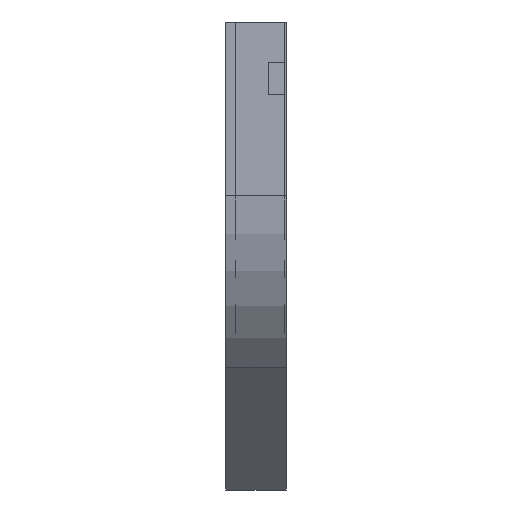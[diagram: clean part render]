
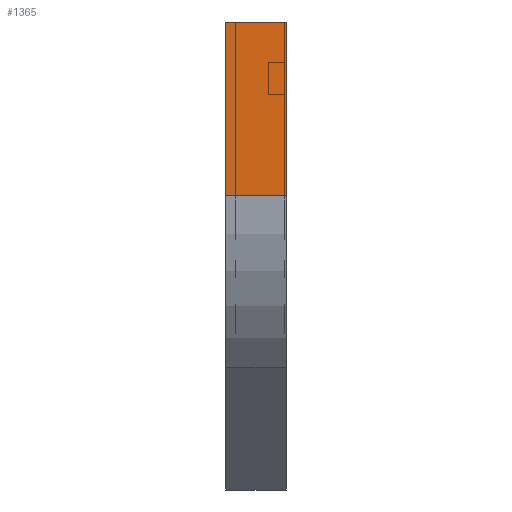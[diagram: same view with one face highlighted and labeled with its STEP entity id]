
A CAD part, left-side view. The second image highlights one B-rep face of the part: STEP entity #1365.
In plain terms, the highlighted planar face has unit normal (-1, 0, 0).
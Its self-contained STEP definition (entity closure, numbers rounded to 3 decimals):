
#20 = DIRECTION ( 'NONE',  ( 0., -1., 0. ) ) ;
#101 = CARTESIAN_POINT ( 'NONE',  ( 0., 75., -215.685 ) ) ;
#172 = DIRECTION ( 'NONE',  ( 0., -1., 0. ) ) ;
#192 = LINE ( 'NONE', #746, #1609 ) ;
#222 = ORIENTED_EDGE ( 'NONE', *, *, #909, .F. ) ;
#306 = VECTOR ( 'NONE', #771, 1000. ) ;
#336 = VERTEX_POINT ( 'NONE', #538 ) ;
#338 = LINE ( 'NONE', #1761, #1298 ) ;
#346 = VERTEX_POINT ( 'NONE', #101 ) ;
#393 = ORIENTED_EDGE ( 'NONE', *, *, #1356, .T. ) ;
#454 = VERTEX_POINT ( 'NONE', #1124 ) ;
#538 = CARTESIAN_POINT ( 'NONE',  ( 0., 0., 0. ) ) ;
#671 = ORIENTED_EDGE ( 'NONE', *, *, #961, .T. ) ;
#746 = CARTESIAN_POINT ( 'NONE',  ( 0., 0., -215.685 ) ) ;
#771 = DIRECTION ( 'NONE',  ( 0., 0., -1. ) ) ;
#871 = LINE ( 'NONE', #1519, #306 ) ;
#909 = EDGE_CURVE ( 'NONE', #1842, #336, #1122, .T. ) ;
#914 = PLANE ( 'NONE',  #1383 ) ;
#961 = EDGE_CURVE ( 'NONE', #346, #454, #192, .T. ) ;
#1054 = EDGE_CURVE ( 'NONE', #336, #454, #338, .T. ) ;
#1055 = DIRECTION ( 'NONE',  ( 0., 0., -1. ) ) ;
#1122 = LINE ( 'NONE', #1733, #1843 ) ;
#1124 = CARTESIAN_POINT ( 'NONE',  ( 0., 0., -215.685 ) ) ;
#1137 = EDGE_LOOP ( 'NONE', ( #1573, #222, #393, #671 ) ) ;
#1298 = VECTOR ( 'NONE', #1492, 1000. ) ;
#1356 = EDGE_CURVE ( 'NONE', #1842, #346, #871, .T. ) ;
#1364 = DIRECTION ( 'NONE',  ( 1., 0., 0. ) ) ;
#1365 = ADVANCED_FACE ( 'NONE', ( #1804 ), #914, .F. ) ;
#1383 = AXIS2_PLACEMENT_3D ( 'NONE', #1501, #1364, #1055 ) ;
#1492 = DIRECTION ( 'NONE',  ( 0., 0., -1. ) ) ;
#1501 = CARTESIAN_POINT ( 'NONE',  ( 0., 0., 0. ) ) ;
#1519 = CARTESIAN_POINT ( 'NONE',  ( 0., 75., 0. ) ) ;
#1573 = ORIENTED_EDGE ( 'NONE', *, *, #1054, .F. ) ;
#1609 = VECTOR ( 'NONE', #172, 1000. ) ;
#1654 = CARTESIAN_POINT ( 'NONE',  ( 0., 75., 0. ) ) ;
#1733 = CARTESIAN_POINT ( 'NONE',  ( 0., 0., 0. ) ) ;
#1761 = CARTESIAN_POINT ( 'NONE',  ( 0., 0., 0. ) ) ;
#1804 = FACE_OUTER_BOUND ( 'NONE', #1137, .T. ) ;
#1842 = VERTEX_POINT ( 'NONE', #1654 ) ;
#1843 = VECTOR ( 'NONE', #20, 1000. ) ;
